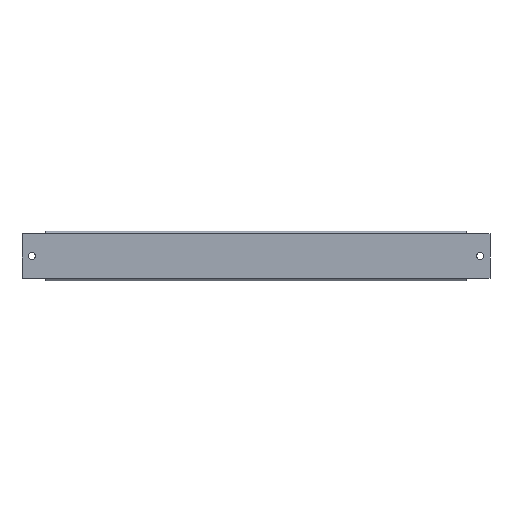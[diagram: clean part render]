
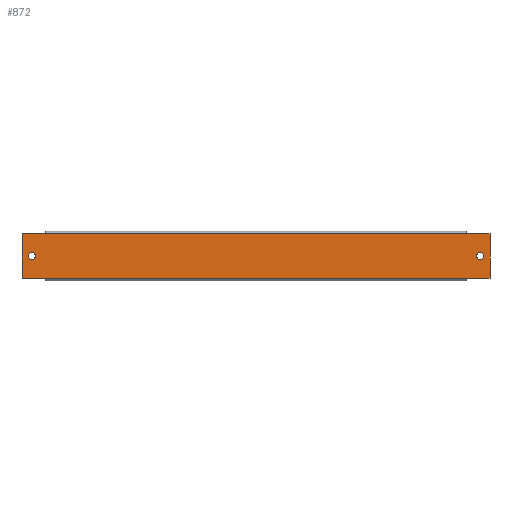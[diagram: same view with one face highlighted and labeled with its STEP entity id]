
A CAD part, top view. The second image highlights one B-rep face of the part: STEP entity #872.
In plain terms, the highlighted planar face has unit normal (0, 0, 1).
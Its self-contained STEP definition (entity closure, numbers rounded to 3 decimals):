
#4 = VECTOR ( 'NONE', #525, 1000. ) ;
#5 = VECTOR ( 'NONE', #520, 1000. ) ;
#11 = AXIS2_PLACEMENT_3D ( 'NONE', #488, #594, #572 ) ;
#13 = AXIS2_PLACEMENT_3D ( 'NONE', #562, #473, #476 ) ;
#14 = AXIS2_PLACEMENT_3D ( 'NONE', #470, #464, #469 ) ;
#29 = VECTOR ( 'NONE', #234, 1000. ) ;
#75 = LINE ( 'NONE', #271, #328 ) ;
#128 = PLANE ( 'NONE',  #397 ) ;
#129 = CARTESIAN_POINT ( 'NONE',  ( -232.5, -24.5, 1.2 ) ) ;
#130 = DIRECTION ( 'NONE',  ( 0., 0., 1. ) ) ;
#131 = DIRECTION ( 'NONE',  ( 1., 0., 0. ) ) ;
#218 = CARTESIAN_POINT ( 'NONE',  ( -232.5, -22.1, 1.2 ) ) ;
#234 = DIRECTION ( 'NONE',  ( -1., 0., 0. ) ) ;
#245 = DIRECTION ( 'NONE',  ( -1., 0., 0. ) ) ;
#247 = LINE ( 'NONE', #248, #325 ) ;
#248 = CARTESIAN_POINT ( 'NONE',  ( -232.5, 22.1, 1.2 ) ) ;
#250 = LINE ( 'NONE', #218, #330 ) ;
#251 = CARTESIAN_POINT ( 'NONE',  ( 209.5, 22.1, 1.2 ) ) ;
#252 = LINE ( 'NONE', #251, #326 ) ;
#253 = DIRECTION ( 'NONE',  ( -1., 0., 0. ) ) ;
#271 = CARTESIAN_POINT ( 'NONE',  ( -209.5, -22.1, 1.2 ) ) ;
#280 = DIRECTION ( 'NONE',  ( 1., 0., 0. ) ) ;
#281 = DIRECTION ( 'NONE',  ( 0., -1., 0. ) ) ;
#286 = CARTESIAN_POINT ( 'NONE',  ( -222.75, 0., 1.2 ) ) ;
#295 = DIRECTION ( 'NONE',  ( 1., 0., 0. ) ) ;
#311 = CARTESIAN_POINT ( 'NONE',  ( -232.5, 24.5, 1.2 ) ) ;
#314 = LINE ( 'NONE', #311, #381 ) ;
#321 = DIRECTION ( 'NONE',  ( 1., 0., 0. ) ) ;
#322 = DIRECTION ( 'NONE',  ( 0., 0., 1. ) ) ;
#325 = VECTOR ( 'NONE', #245, 1000. ) ;
#326 = VECTOR ( 'NONE', #253, 1000. ) ;
#328 = VECTOR ( 'NONE', #280, 1000. ) ;
#330 = VECTOR ( 'NONE', #321, 1000. ) ;
#374 = AXIS2_PLACEMENT_3D ( 'NONE', #286, #322, #295 ) ;
#381 = VECTOR ( 'NONE', #281, 1000. ) ;
#393 = FACE_OUTER_BOUND ( 'NONE', #530, .T. ) ;
#397 = AXIS2_PLACEMENT_3D ( 'NONE', #129, #130, #131 ) ;
#399 = FACE_BOUND ( 'NONE', #524, .T. ) ;
#400 = FACE_BOUND ( 'NONE', #582, .T. ) ;
#459 = ORIENTED_EDGE ( 'NONE', *, *, #787, .F. ) ;
#464 = DIRECTION ( 'NONE',  ( 0., 0., 1. ) ) ;
#469 = DIRECTION ( 'NONE',  ( 1., 0., 0. ) ) ;
#470 = CARTESIAN_POINT ( 'NONE',  ( -222.75, 0., 1.2 ) ) ;
#473 = DIRECTION ( 'NONE',  ( 0., 0., -1. ) ) ;
#476 = DIRECTION ( 'NONE',  ( 1., 0., 0. ) ) ;
#488 = CARTESIAN_POINT ( 'NONE',  ( 222.75, 0., 1.2 ) ) ;
#517 = CARTESIAN_POINT ( 'NONE',  ( 232.5, 24.5, 1.2 ) ) ;
#518 = LINE ( 'NONE', #517, #5 ) ;
#520 = DIRECTION ( 'NONE',  ( 0., 1., 0. ) ) ;
#522 = CARTESIAN_POINT ( 'NONE',  ( -232.5, -22.1, 1.2 ) ) ;
#523 = LINE ( 'NONE', #522, #4 ) ;
#524 = EDGE_LOOP ( 'NONE', ( #748, #459 ) ) ;
#525 = DIRECTION ( 'NONE',  ( 1., 0., 0. ) ) ;
#527 = CARTESIAN_POINT ( 'NONE',  ( -232.5, 22.1, 1.2 ) ) ;
#528 = LINE ( 'NONE', #527, #29 ) ;
#530 = EDGE_LOOP ( 'NONE', ( #736, #752, #741, #742, #750, #749, #751, #754 ) ) ;
#557 = VERTEX_POINT ( 'NONE', #636 ) ;
#559 = VERTEX_POINT ( 'NONE', #637 ) ;
#560 = VERTEX_POINT ( 'NONE', #634 ) ;
#561 = VERTEX_POINT ( 'NONE', #633 ) ;
#562 = CARTESIAN_POINT ( 'NONE',  ( 222.75, 0., 1.2 ) ) ;
#563 = VERTEX_POINT ( 'NONE', #632 ) ;
#564 = VERTEX_POINT ( 'NONE', #631 ) ;
#565 = VERTEX_POINT ( 'NONE', #630 ) ;
#572 = DIRECTION ( 'NONE',  ( 1., 0., 0. ) ) ;
#578 = VERTEX_POINT ( 'NONE', #628 ) ;
#582 = EDGE_LOOP ( 'NONE', ( #755, #761 ) ) ;
#588 = VERTEX_POINT ( 'NONE', #623 ) ;
#589 = VERTEX_POINT ( 'NONE', #625 ) ;
#590 = VERTEX_POINT ( 'NONE', #622 ) ;
#594 = DIRECTION ( 'NONE',  ( 0., 0., -1. ) ) ;
#595 = VERTEX_POINT ( 'NONE', #621 ) ;
#621 = CARTESIAN_POINT ( 'NONE',  ( -209.5, 22.1, 1.2 ) ) ;
#622 = CARTESIAN_POINT ( 'NONE',  ( -219.25, 0., 1.2 ) ) ;
#623 = CARTESIAN_POINT ( 'NONE',  ( -232.5, -22.1, 1.2 ) ) ;
#625 = CARTESIAN_POINT ( 'NONE',  ( 226.25, 0., 1.2 ) ) ;
#628 = CARTESIAN_POINT ( 'NONE',  ( 232.5, 22.1, 1.2 ) ) ;
#630 = CARTESIAN_POINT ( 'NONE',  ( -232.5, 22.1, 1.2 ) ) ;
#631 = CARTESIAN_POINT ( 'NONE',  ( 209.5, 22.1, 1.2 ) ) ;
#632 = CARTESIAN_POINT ( 'NONE',  ( 219.25, 0., 1.2 ) ) ;
#633 = CARTESIAN_POINT ( 'NONE',  ( 209.5, -22.1, 1.2 ) ) ;
#634 = CARTESIAN_POINT ( 'NONE',  ( -226.25, 0., 1.2 ) ) ;
#636 = CARTESIAN_POINT ( 'NONE',  ( -209.5, -22.1, 1.2 ) ) ;
#637 = CARTESIAN_POINT ( 'NONE',  ( 232.5, -22.1, 1.2 ) ) ;
#736 = ORIENTED_EDGE ( 'NONE', *, *, #860, .T. ) ;
#741 = ORIENTED_EDGE ( 'NONE', *, *, #800, .T. ) ;
#742 = ORIENTED_EDGE ( 'NONE', *, *, #793, .T. ) ;
#748 = ORIENTED_EDGE ( 'NONE', *, *, #855, .F. ) ;
#749 = ORIENTED_EDGE ( 'NONE', *, *, #794, .T. ) ;
#750 = ORIENTED_EDGE ( 'NONE', *, *, #792, .T. ) ;
#751 = ORIENTED_EDGE ( 'NONE', *, *, #798, .T. ) ;
#752 = ORIENTED_EDGE ( 'NONE', *, *, #802, .T. ) ;
#754 = ORIENTED_EDGE ( 'NONE', *, *, #797, .T. ) ;
#755 = ORIENTED_EDGE ( 'NONE', *, *, #786, .T. ) ;
#761 = ORIENTED_EDGE ( 'NONE', *, *, #785, .T. ) ;
#785 = EDGE_CURVE ( 'NONE', #563, #589, #832, .T. ) ;
#786 = EDGE_CURVE ( 'NONE', #589, #563, #842, .T. ) ;
#787 = EDGE_CURVE ( 'NONE', #560, #590, #875, .T. ) ;
#792 = EDGE_CURVE ( 'NONE', #559, #578, #518, .T. ) ;
#793 = EDGE_CURVE ( 'NONE', #561, #559, #523, .T. ) ;
#794 = EDGE_CURVE ( 'NONE', #578, #564, #528, .T. ) ;
#797 = EDGE_CURVE ( 'NONE', #595, #565, #247, .T. ) ;
#798 = EDGE_CURVE ( 'NONE', #564, #595, #252, .T. ) ;
#800 = EDGE_CURVE ( 'NONE', #557, #561, #75, .T. ) ;
#802 = EDGE_CURVE ( 'NONE', #588, #557, #250, .T. ) ;
#832 = CIRCLE ( 'NONE', #13, 3.5 ) ;
#834 = CIRCLE ( 'NONE', #374, 3.5 ) ;
#842 = CIRCLE ( 'NONE', #11, 3.5 ) ;
#855 = EDGE_CURVE ( 'NONE', #590, #560, #834, .T. ) ;
#860 = EDGE_CURVE ( 'NONE', #565, #588, #314, .T. ) ;
#872 = ADVANCED_FACE ( 'NONE', ( #393, #399, #400 ), #128, .T. ) ;
#875 = CIRCLE ( 'NONE', #14, 3.5 ) ;
